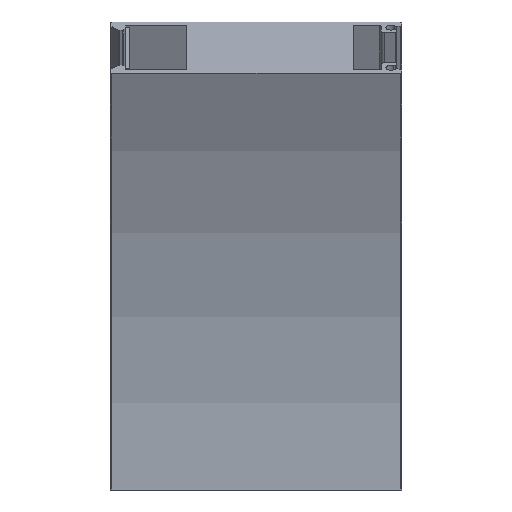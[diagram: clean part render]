
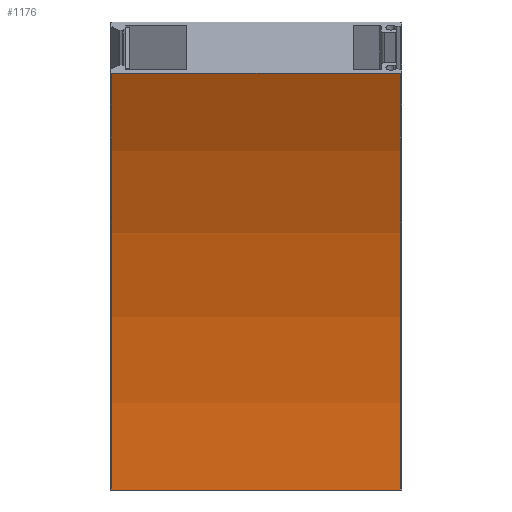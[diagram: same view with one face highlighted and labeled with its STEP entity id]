
A CAD part, left-side view. The second image highlights one B-rep face of the part: STEP entity #1176.
In plain terms, the highlighted cylindrical face has radius 272.2 mm (diameter 544.4 mm), a partial arc.
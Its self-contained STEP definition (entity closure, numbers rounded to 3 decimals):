
#36=CYLINDRICAL_SURFACE('',#1333,272.2);
#59=LINE('',#2014,#127);
#60=LINE('',#2016,#128);
#127=VECTOR('',#1587,10.);
#128=VECTOR('',#1588,10.);
#216=FACE_OUTER_BOUND('',#282,.T.);
#282=EDGE_LOOP('',(#821,#822,#823,#824));
#366=CIRCLE('',#1332,272.2);
#367=CIRCLE('',#1334,272.2);
#481=VERTEX_POINT('',#2007);
#482=VERTEX_POINT('',#2009);
#483=VERTEX_POINT('',#2013);
#484=VERTEX_POINT('',#2015);
#620=EDGE_CURVE('',#481,#482,#366,.T.);
#621=EDGE_CURVE('',#483,#481,#59,.T.);
#622=EDGE_CURVE('',#484,#482,#60,.T.);
#623=EDGE_CURVE('',#483,#484,#367,.T.);
#821=ORIENTED_EDGE('',*,*,#621,.T.);
#822=ORIENTED_EDGE('',*,*,#620,.T.);
#823=ORIENTED_EDGE('',*,*,#622,.F.);
#824=ORIENTED_EDGE('',*,*,#623,.F.);
#1176=ADVANCED_FACE('',(#216),#36,.F.);
#1332=AXIS2_PLACEMENT_3D('',#2011,#1583,#1584);
#1333=AXIS2_PLACEMENT_3D('',#2012,#1585,#1586);
#1334=AXIS2_PLACEMENT_3D('',#2017,#1589,#1590);
#1583=DIRECTION('center_axis',(0.,-1.,0.));
#1584=DIRECTION('ref_axis',(1.,0.,0.));
#1585=DIRECTION('center_axis',(0.,-1.,0.));
#1586=DIRECTION('ref_axis',(1.,0.,0.));
#1587=DIRECTION('',(0.,-1.,0.));
#1588=DIRECTION('',(0.,-1.,0.));
#1589=DIRECTION('center_axis',(0.,-1.,0.));
#1590=DIRECTION('ref_axis',(1.,0.,0.));
#2007=CARTESIAN_POINT('',(-18.595,-41.736,0.));
#2009=CARTESIAN_POINT('',(-55.062,-41.736,136.1));
#2011=CARTESIAN_POINT('Origin',(-290.795,-41.736,0.));
#2012=CARTESIAN_POINT('Origin',(-290.795,5.314,0.));
#2013=CARTESIAN_POINT('',(-18.595,52.364,0.));
#2014=CARTESIAN_POINT('',(-18.595,52.364,0.));
#2015=CARTESIAN_POINT('',(-55.062,52.364,136.1));
#2016=CARTESIAN_POINT('',(-55.062,52.364,136.1));
#2017=CARTESIAN_POINT('Origin',(-290.795,52.364,0.));
